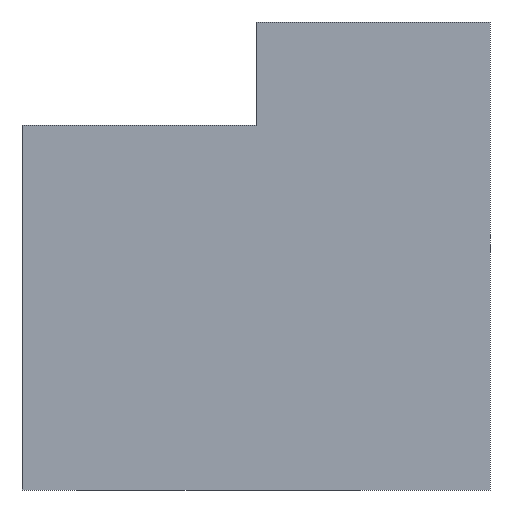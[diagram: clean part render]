
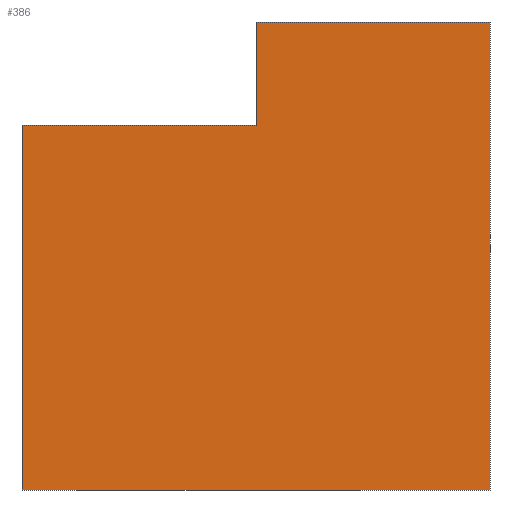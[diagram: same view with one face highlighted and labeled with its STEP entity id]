
A CAD part, front view. The second image highlights one B-rep face of the part: STEP entity #386.
In plain terms, the highlighted planar face has unit normal (0, -1, 0).
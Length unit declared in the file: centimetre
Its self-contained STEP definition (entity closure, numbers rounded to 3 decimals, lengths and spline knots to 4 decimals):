
#7 = LINE ( 'NONE', #100, #53 ) ;
#8 = ORIENTED_EDGE ( 'NONE', *, *, #9, .T. ) ;
#9 = EDGE_CURVE ( 'NONE', #138, #350, #105, .T. ) ;
#14 = AXIS2_PLACEMENT_3D ( 'NONE', #136, #43, #67 ) ;
#23 = DIRECTION ( 'NONE',  ( 1., 0., 0. ) ) ;
#28 = CARTESIAN_POINT ( 'NONE',  ( 1000., 0., 1000. ) ) ;
#31 = DIRECTION ( 'NONE',  ( 0., 0., -1. ) ) ;
#41 = ORIENTED_EDGE ( 'NONE', *, *, #364, .T. ) ;
#43 = DIRECTION ( 'NONE',  ( 0., 1., 0. ) ) ;
#49 = EDGE_CURVE ( 'NONE', #138, #65, #259, .T. ) ;
#51 = VECTOR ( 'NONE', #332, 100. ) ;
#53 = VECTOR ( 'NONE', #289, 100. ) ;
#57 = CARTESIAN_POINT ( 'NONE',  ( 0., 0., 1000. ) ) ;
#65 = VERTEX_POINT ( 'NONE', #219 ) ;
#67 = DIRECTION ( 'NONE',  ( 0., 0., 1. ) ) ;
#69 = ORIENTED_EDGE ( 'NONE', *, *, #97, .F. ) ;
#80 = CARTESIAN_POINT ( 'NONE',  ( 1000., 0., 0. ) ) ;
#88 = CARTESIAN_POINT ( 'NONE',  ( 1000., 0., 1000. ) ) ;
#95 = LINE ( 'NONE', #28, #395 ) ;
#97 = EDGE_CURVE ( 'NONE', #108, #263, #95, .T. ) ;
#99 = DIRECTION ( 'NONE',  ( 1., 0., 0. ) ) ;
#100 = CARTESIAN_POINT ( 'NONE',  ( 0., 0., 0. ) ) ;
#105 = LINE ( 'NONE', #257, #400 ) ;
#108 = VERTEX_POINT ( 'NONE', #88 ) ;
#115 = CARTESIAN_POINT ( 'NONE',  ( 500., 0., 1000. ) ) ;
#136 = CARTESIAN_POINT ( 'NONE',  ( 0., 0., 1000. ) ) ;
#138 = VERTEX_POINT ( 'NONE', #222 ) ;
#139 = FACE_OUTER_BOUND ( 'NONE', #237, .T. ) ;
#198 = ORIENTED_EDGE ( 'NONE', *, *, #329, .F. ) ;
#218 = CARTESIAN_POINT ( 'NONE',  ( 500., 0., 779.8491 ) ) ;
#219 = CARTESIAN_POINT ( 'NONE',  ( 500., 0., 779.8491 ) ) ;
#222 = CARTESIAN_POINT ( 'NONE',  ( 0., 0., 779.8491 ) ) ;
#224 = DIRECTION ( 'NONE',  ( 0., 0., -1. ) ) ;
#227 = ORIENTED_EDGE ( 'NONE', *, *, #49, .F. ) ;
#229 = PLANE ( 'NONE',  #14 ) ;
#235 = VECTOR ( 'NONE', #99, 100. ) ;
#237 = EDGE_LOOP ( 'NONE', ( #198, #267, #227, #8, #41, #69 ) ) ;
#242 = EDGE_CURVE ( 'NONE', #65, #288, #401, .T. ) ;
#257 = CARTESIAN_POINT ( 'NONE',  ( 0., 0., 1000. ) ) ;
#259 = LINE ( 'NONE', #385, #235 ) ;
#263 = VERTEX_POINT ( 'NONE', #80 ) ;
#267 = ORIENTED_EDGE ( 'NONE', *, *, #242, .F. ) ;
#278 = CARTESIAN_POINT ( 'NONE',  ( 0., 0., 0. ) ) ;
#288 = VERTEX_POINT ( 'NONE', #115 ) ;
#289 = DIRECTION ( 'NONE',  ( 1., 0., 0. ) ) ;
#298 = VECTOR ( 'NONE', #23, 100. ) ;
#329 = EDGE_CURVE ( 'NONE', #288, #108, #338, .T. ) ;
#332 = DIRECTION ( 'NONE',  ( 0., 0., 1. ) ) ;
#338 = LINE ( 'NONE', #57, #298 ) ;
#350 = VERTEX_POINT ( 'NONE', #278 ) ;
#364 = EDGE_CURVE ( 'NONE', #350, #263, #7, .T. ) ;
#385 = CARTESIAN_POINT ( 'NONE',  ( 500., 0., 779.8491 ) ) ;
#386 = ADVANCED_FACE ( 'NONE', ( #139 ), #229, .F. ) ;
#395 = VECTOR ( 'NONE', #224, 100. ) ;
#400 = VECTOR ( 'NONE', #31, 100. ) ;
#401 = LINE ( 'NONE', #218, #51 ) ;
